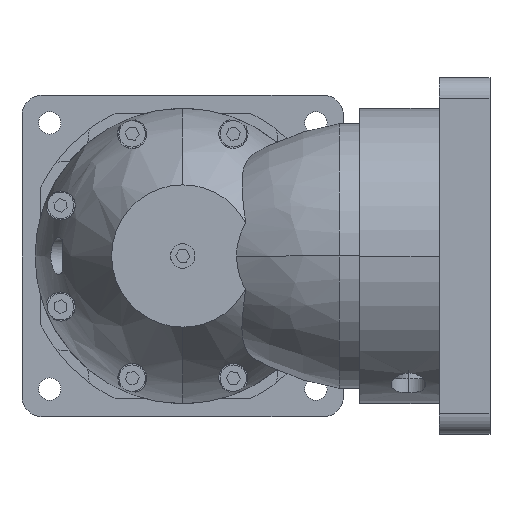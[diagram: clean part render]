
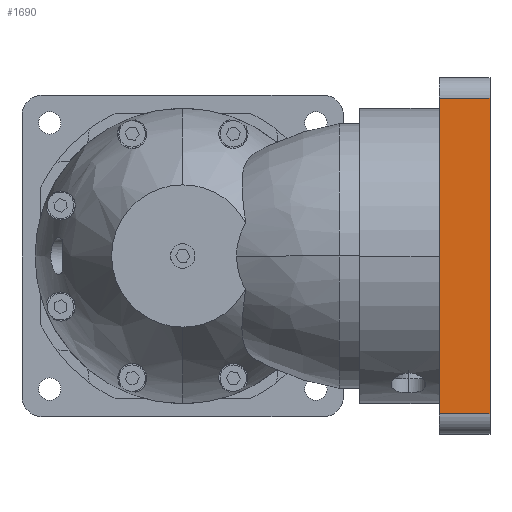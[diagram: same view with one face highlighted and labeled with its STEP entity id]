
A CAD part, left-side view. The second image highlights one B-rep face of the part: STEP entity #1690.
In plain terms, the highlighted planar face has unit normal (-1, 0, 0).
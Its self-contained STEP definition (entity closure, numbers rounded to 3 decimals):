
#369 = PLANE ( 'NONE',  #582 ) ;
#582 = AXIS2_PLACEMENT_3D ( 'NONE', #7018, #7122, #1389 ) ;
#630 = VECTOR ( 'NONE', #1232, 1000. ) ;
#878 = CARTESIAN_POINT ( 'NONE',  ( -87.5, -151., 77.5 ) ) ;
#1156 = LINE ( 'NONE', #12633, #630 ) ;
#1232 = DIRECTION ( 'NONE',  ( 0., 0., 1. ) ) ;
#1389 = DIRECTION ( 'NONE',  ( 0., 1., 0. ) ) ;
#1690 = ADVANCED_FACE ( 'NONE', ( #4503 ), #369, .F. ) ;
#1696 = EDGE_LOOP ( 'NONE', ( #12894, #10278, #7432, #7164 ) ) ;
#3065 = CARTESIAN_POINT ( 'NONE',  ( -87.5, -126., 77.5 ) ) ;
#3867 = VECTOR ( 'NONE', #6989, 1000. ) ;
#4503 = FACE_OUTER_BOUND ( 'NONE', #1696, .T. ) ;
#4922 = LINE ( 'NONE', #10220, #8806 ) ;
#5205 = LINE ( 'NONE', #7013, #5728 ) ;
#5728 = VECTOR ( 'NONE', #10310, 1000. ) ;
#6909 = EDGE_CURVE ( 'NONE', #8114, #14332, #7606, .T. ) ;
#6989 = DIRECTION ( 'NONE',  ( 0., 0., -1. ) ) ;
#7013 = CARTESIAN_POINT ( 'NONE',  ( -87.5, -151., -77.5 ) ) ;
#7018 = CARTESIAN_POINT ( 'NONE',  ( -87.5, -151., 77.5 ) ) ;
#7122 = DIRECTION ( 'NONE',  ( 1., 0., 0. ) ) ;
#7164 = ORIENTED_EDGE ( 'NONE', *, *, #10264, .F. ) ;
#7432 = ORIENTED_EDGE ( 'NONE', *, *, #14558, .F. ) ;
#7574 = VERTEX_POINT ( 'NONE', #9662 ) ;
#7606 = LINE ( 'NONE', #12566, #3867 ) ;
#8114 = VERTEX_POINT ( 'NONE', #878 ) ;
#8149 = CARTESIAN_POINT ( 'NONE',  ( -87.5, -151., -77.5 ) ) ;
#8806 = VECTOR ( 'NONE', #13650, 1000. ) ;
#9503 = VERTEX_POINT ( 'NONE', #3065 ) ;
#9662 = CARTESIAN_POINT ( 'NONE',  ( -87.5, -126., -77.5 ) ) ;
#9821 = EDGE_CURVE ( 'NONE', #14332, #7574, #5205, .T. ) ;
#10220 = CARTESIAN_POINT ( 'NONE',  ( -87.5, -151., 77.5 ) ) ;
#10264 = EDGE_CURVE ( 'NONE', #7574, #9503, #1156, .T. ) ;
#10278 = ORIENTED_EDGE ( 'NONE', *, *, #6909, .F. ) ;
#10310 = DIRECTION ( 'NONE',  ( 0., 1., 0. ) ) ;
#12566 = CARTESIAN_POINT ( 'NONE',  ( -87.5, -151., 77.5 ) ) ;
#12633 = CARTESIAN_POINT ( 'NONE',  ( -87.5, -126., 77.5 ) ) ;
#12894 = ORIENTED_EDGE ( 'NONE', *, *, #9821, .F. ) ;
#13650 = DIRECTION ( 'NONE',  ( 0., -1., 0. ) ) ;
#14332 = VERTEX_POINT ( 'NONE', #8149 ) ;
#14558 = EDGE_CURVE ( 'NONE', #9503, #8114, #4922, .T. ) ;
